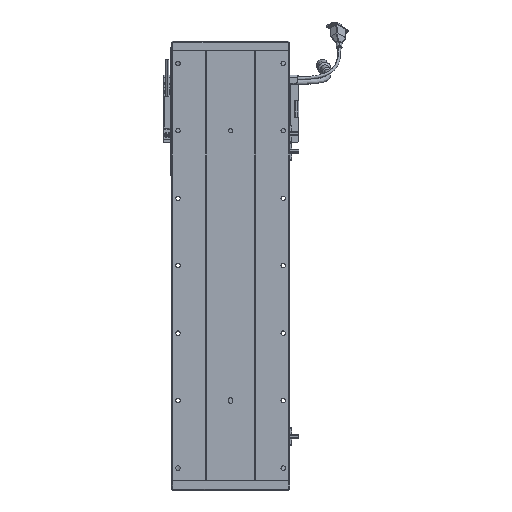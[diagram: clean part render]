
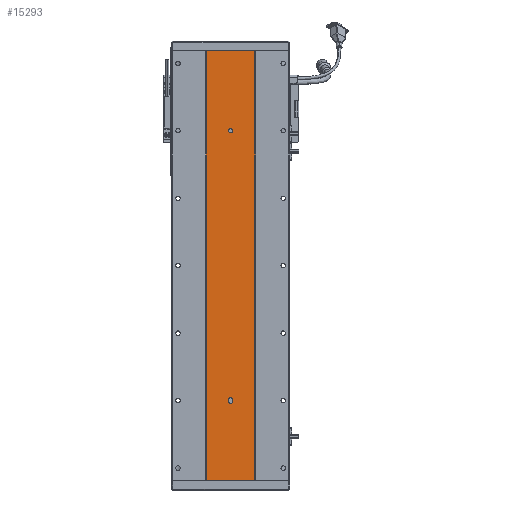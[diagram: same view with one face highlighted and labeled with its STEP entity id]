
A CAD part, front view. The second image highlights one B-rep face of the part: STEP entity #15293.
In plain terms, the highlighted planar face has unit normal (0, -1, 0).
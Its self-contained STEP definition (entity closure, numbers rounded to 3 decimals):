
#784 = ORIENTED_EDGE ( 'NONE', *, *, #45212, .T. ) ;
#1506 = AXIS2_PLACEMENT_3D ( 'NONE', #57239, #62978, #45260 ) ;
#2158 = CARTESIAN_POINT ( 'NONE',  ( 3280.529, 1415.701, 117. ) ) ;
#3364 = CARTESIAN_POINT ( 'NONE',  ( 3277.529, 1415.701, 120. ) ) ;
#4798 = EDGE_CURVE ( 'NONE', #19769, #54017, #45477, .T. ) ;
#4882 = AXIS2_PLACEMENT_3D ( 'NONE', #9349, #51048, #15604 ) ;
#6186 = DIRECTION ( 'NONE',  ( 0., -1., 0. ) ) ;
#6203 = EDGE_LOOP ( 'NONE', ( #54914, #65601 ) ) ;
#6616 = LINE ( 'NONE', #71693, #32721 ) ;
#6744 = EDGE_CURVE ( 'NONE', #31361, #31765, #18195, .T. ) ;
#6854 = CARTESIAN_POINT ( 'NONE',  ( 3280.529, 1415.701, 521.5 ) ) ;
#7216 = VECTOR ( 'NONE', #10936, 1000. ) ;
#8501 = CARTESIAN_POINT ( 'NONE',  ( 3280.529, 1415.701, 515.5 ) ) ;
#8579 = CARTESIAN_POINT ( 'NONE',  ( 3277.529, 1415.701, 117. ) ) ;
#9174 = VECTOR ( 'NONE', #21091, 1000. ) ;
#9325 = CARTESIAN_POINT ( 'NONE',  ( 3283.529, 1415.701, 117. ) ) ;
#9349 = CARTESIAN_POINT ( 'NONE',  ( 3280.529, 1415.701, 120. ) ) ;
#10271 = ORIENTED_EDGE ( 'NONE', *, *, #74198, .F. ) ;
#10678 = CARTESIAN_POINT ( 'NONE',  ( 3244.748, 1415.701, 0. ) ) ;
#10936 = DIRECTION ( 'NONE',  ( 1., 0., 0. ) ) ;
#12281 = ORIENTED_EDGE ( 'NONE', *, *, #4798, .F. ) ;
#12448 = DIRECTION ( 'NONE',  ( 0., 0., -1. ) ) ;
#12887 = CARTESIAN_POINT ( 'NONE',  ( 3316.311, 1415.701, 0. ) ) ;
#15293 = ADVANCED_FACE ( 'NONE', ( #77429, #63395, #54116 ), #27761, .F. ) ;
#15604 = DIRECTION ( 'NONE',  ( 0., 0., -1. ) ) ;
#18195 = CIRCLE ( 'NONE', #70500, 3. ) ;
#18385 = EDGE_CURVE ( 'NONE', #31765, #31361, #48221, .T. ) ;
#18483 = LINE ( 'NONE', #33312, #9174 ) ;
#19666 = LINE ( 'NONE', #74905, #66299 ) ;
#19769 = VERTEX_POINT ( 'NONE', #71587 ) ;
#19981 = EDGE_LOOP ( 'NONE', ( #10271, #67600, #73358, #67663, #12281 ) ) ;
#21091 = DIRECTION ( 'NONE',  ( 0., 0., -1. ) ) ;
#21348 = LINE ( 'NONE', #70354, #22242 ) ;
#21726 = DIRECTION ( 'NONE',  ( 0., 0., -1. ) ) ;
#21850 = VERTEX_POINT ( 'NONE', #56419 ) ;
#22242 = VECTOR ( 'NONE', #52074, 1000. ) ;
#25051 = DIRECTION ( 'NONE',  ( 0., 0., -1. ) ) ;
#25631 = DIRECTION ( 'NONE',  ( 0., -1., 0. ) ) ;
#26142 = DIRECTION ( 'NONE',  ( 0., 0., -1. ) ) ;
#27507 = EDGE_CURVE ( 'NONE', #58736, #50951, #18483, .T. ) ;
#27761 = PLANE ( 'NONE',  #1506 ) ;
#30125 = VERTEX_POINT ( 'NONE', #55349 ) ;
#30249 = DIRECTION ( 'NONE',  ( 1., 0., 0. ) ) ;
#30650 = CARTESIAN_POINT ( 'NONE',  ( 3280.529, 1415.701, 117. ) ) ;
#31361 = VERTEX_POINT ( 'NONE', #8501 ) ;
#31765 = VERTEX_POINT ( 'NONE', #6854 ) ;
#31832 = EDGE_CURVE ( 'NONE', #61860, #59067, #73301, .T. ) ;
#32721 = VECTOR ( 'NONE', #30249, 1000. ) ;
#33312 = CARTESIAN_POINT ( 'NONE',  ( 3277.529, 1415.701, 120. ) ) ;
#34329 = CIRCLE ( 'NONE', #62186, 3. ) ;
#35402 = AXIS2_PLACEMENT_3D ( 'NONE', #2158, #25631, #26142 ) ;
#39191 = ORIENTED_EDGE ( 'NONE', *, *, #31832, .T. ) ;
#40885 = DIRECTION ( 'NONE',  ( 0., -1., 0. ) ) ;
#45212 = EDGE_CURVE ( 'NONE', #59067, #53255, #51918, .T. ) ;
#45260 = DIRECTION ( 'NONE',  ( 0., 0., 1. ) ) ;
#45404 = CIRCLE ( 'NONE', #4882, 3. ) ;
#45477 = CIRCLE ( 'NONE', #35402, 3. ) ;
#46096 = DIRECTION ( 'NONE',  ( 0., 0., -1. ) ) ;
#48221 = CIRCLE ( 'NONE', #55626, 3. ) ;
#50687 = DIRECTION ( 'NONE',  ( 0., -1., 0. ) ) ;
#50951 = VERTEX_POINT ( 'NONE', #8579 ) ;
#51048 = DIRECTION ( 'NONE',  ( 0., -1., 0. ) ) ;
#51918 = LINE ( 'NONE', #10678, #7216 ) ;
#52074 = DIRECTION ( 'NONE',  ( 0., 0., 1. ) ) ;
#52975 = CARTESIAN_POINT ( 'NONE',  ( 3244.748, 1415.701, 637. ) ) ;
#53255 = VERTEX_POINT ( 'NONE', #12887 ) ;
#53432 = EDGE_CURVE ( 'NONE', #21850, #53255, #19666, .T. ) ;
#54017 = VERTEX_POINT ( 'NONE', #9325 ) ;
#54116 = FACE_OUTER_BOUND ( 'NONE', #70660, .T. ) ;
#54914 = ORIENTED_EDGE ( 'NONE', *, *, #6744, .F. ) ;
#55349 = CARTESIAN_POINT ( 'NONE',  ( 3283.529, 1415.701, 120. ) ) ;
#55626 = AXIS2_PLACEMENT_3D ( 'NONE', #56416, #50687, #62925 ) ;
#56416 = CARTESIAN_POINT ( 'NONE',  ( 3280.529, 1415.701, 518.5 ) ) ;
#56419 = CARTESIAN_POINT ( 'NONE',  ( 3316.311, 1415.701, 637. ) ) ;
#56720 = EDGE_CURVE ( 'NONE', #30125, #58736, #45404, .T. ) ;
#57239 = CARTESIAN_POINT ( 'NONE',  ( 3244.748, 1415.701, 637. ) ) ;
#58736 = VERTEX_POINT ( 'NONE', #3364 ) ;
#58890 = EDGE_CURVE ( 'NONE', #54017, #30125, #21348, .T. ) ;
#59067 = VERTEX_POINT ( 'NONE', #69484 ) ;
#60604 = ORIENTED_EDGE ( 'NONE', *, *, #53432, .F. ) ;
#61860 = VERTEX_POINT ( 'NONE', #52975 ) ;
#62186 = AXIS2_PLACEMENT_3D ( 'NONE', #30650, #6186, #12448 ) ;
#62925 = DIRECTION ( 'NONE',  ( 0., 0., -1. ) ) ;
#62978 = DIRECTION ( 'NONE',  ( 0., 1., 0. ) ) ;
#63395 = FACE_BOUND ( 'NONE', #6203, .T. ) ;
#64505 = ORIENTED_EDGE ( 'NONE', *, *, #64936, .F. ) ;
#64936 = EDGE_CURVE ( 'NONE', #61860, #21850, #6616, .T. ) ;
#65601 = ORIENTED_EDGE ( 'NONE', *, *, #18385, .F. ) ;
#66299 = VECTOR ( 'NONE', #21726, 1000. ) ;
#66766 = VECTOR ( 'NONE', #25051, 1000. ) ;
#67600 = ORIENTED_EDGE ( 'NONE', *, *, #27507, .F. ) ;
#67663 = ORIENTED_EDGE ( 'NONE', *, *, #58890, .F. ) ;
#69484 = CARTESIAN_POINT ( 'NONE',  ( 3244.748, 1415.701, 0. ) ) ;
#70354 = CARTESIAN_POINT ( 'NONE',  ( 3283.529, 1415.701, 120. ) ) ;
#70500 = AXIS2_PLACEMENT_3D ( 'NONE', #71100, #40885, #46096 ) ;
#70660 = EDGE_LOOP ( 'NONE', ( #784, #60604, #64505, #39191 ) ) ;
#71100 = CARTESIAN_POINT ( 'NONE',  ( 3280.529, 1415.701, 518.5 ) ) ;
#71587 = CARTESIAN_POINT ( 'NONE',  ( 3280.529, 1415.701, 114. ) ) ;
#71693 = CARTESIAN_POINT ( 'NONE',  ( 3244.748, 1415.701, 637. ) ) ;
#72778 = CARTESIAN_POINT ( 'NONE',  ( 3244.748, 1415.701, 637. ) ) ;
#73301 = LINE ( 'NONE', #72778, #66766 ) ;
#73358 = ORIENTED_EDGE ( 'NONE', *, *, #56720, .F. ) ;
#74198 = EDGE_CURVE ( 'NONE', #50951, #19769, #34329, .T. ) ;
#74905 = CARTESIAN_POINT ( 'NONE',  ( 3316.311, 1415.701, 637. ) ) ;
#77429 = FACE_BOUND ( 'NONE', #19981, .T. ) ;
